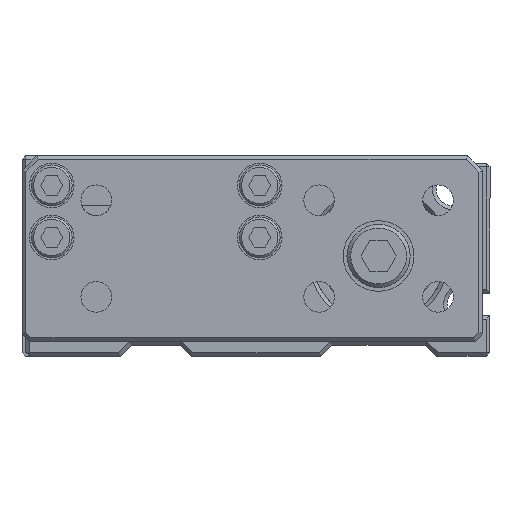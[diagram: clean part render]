
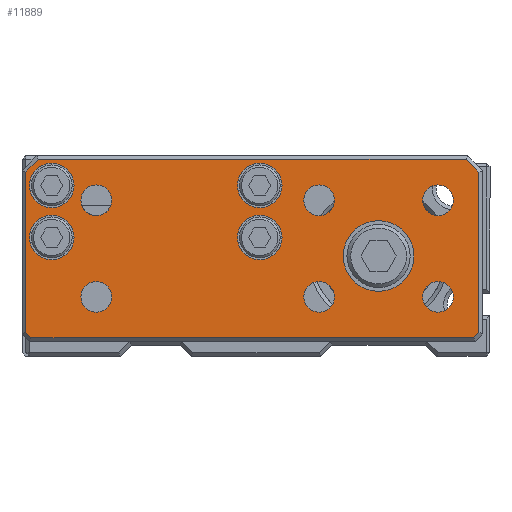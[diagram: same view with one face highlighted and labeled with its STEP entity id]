
A CAD part, front view. The second image highlights one B-rep face of the part: STEP entity #11889.
In plain terms, the highlighted planar face has unit normal (0, -1, 0).
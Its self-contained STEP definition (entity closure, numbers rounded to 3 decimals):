
#10991=CARTESIAN_POINT('',(4.75,-11.8,0.0));
#10992=VERTEX_POINT('',#10991);
#10993=CARTESIAN_POINT('',(0.,-11.8,0.0));
#10994=DIRECTION('',(0.0,1.0,0.0));
#10995=DIRECTION('',(1.0,0.0,0.0));
#10996=AXIS2_PLACEMENT_3D('',#10993,#10994,#10995);
#10997=CIRCLE('',#10996,4.75);
#10998=EDGE_CURVE('',#10992,#10992,#10997,.T.);
#11052=CARTESIAN_POINT('',(-41.0,-11.8,9.5));
#11053=VERTEX_POINT('',#11052);
#11054=CARTESIAN_POINT('',(-44.,-11.8,9.5));
#11055=DIRECTION('',(0.0,1.0,0.0));
#11056=DIRECTION('',(1.0,0.0,0.0));
#11057=AXIS2_PLACEMENT_3D('',#11054,#11055,#11056);
#11058=CIRCLE('',#11057,3.);
#11059=EDGE_CURVE('',#11053,#11053,#11058,.T.);
#11121=CARTESIAN_POINT('',(-41.0,-11.8,2.5));
#11122=VERTEX_POINT('',#11121);
#11123=CARTESIAN_POINT('',(-44.,-11.8,2.5));
#11124=DIRECTION('',(0.0,1.0,0.0));
#11125=DIRECTION('',(1.0,0.0,0.0));
#11126=AXIS2_PLACEMENT_3D('',#11123,#11124,#11125);
#11127=CIRCLE('',#11126,3.);
#11128=EDGE_CURVE('',#11122,#11122,#11127,.T.);
#11190=CARTESIAN_POINT('',(-13.,-11.8,2.5));
#11191=VERTEX_POINT('',#11190);
#11192=CARTESIAN_POINT('',(-16.,-11.8,2.5));
#11193=DIRECTION('',(0.0,1.0,0.0));
#11194=DIRECTION('',(1.0,0.0,0.0));
#11195=AXIS2_PLACEMENT_3D('',#11192,#11193,#11194);
#11196=CIRCLE('',#11195,3.);
#11197=EDGE_CURVE('',#11191,#11191,#11196,.T.);
#11259=CARTESIAN_POINT('',(-13.,-11.8,9.5));
#11260=VERTEX_POINT('',#11259);
#11261=CARTESIAN_POINT('',(-16.,-11.8,9.5));
#11262=DIRECTION('',(0.0,1.0,0.0));
#11263=DIRECTION('',(1.0,0.0,0.0));
#11264=AXIS2_PLACEMENT_3D('',#11261,#11262,#11263);
#11265=CIRCLE('',#11264,3.);
#11266=EDGE_CURVE('',#11260,#11260,#11265,.T.);
#11328=CARTESIAN_POINT('',(10.067,-11.8,7.5));
#11329=VERTEX_POINT('',#11328);
#11330=CARTESIAN_POINT('',(8.,-11.8,7.5));
#11331=DIRECTION('',(0.0,1.0,0.0));
#11332=DIRECTION('',(1.0,0.0,0.0));
#11333=AXIS2_PLACEMENT_3D('',#11330,#11331,#11332);
#11334=CIRCLE('',#11333,2.067);
#11335=EDGE_CURVE('',#11329,#11329,#11334,.T.);
#11377=CARTESIAN_POINT('',(10.067,-11.8,-5.5));
#11378=VERTEX_POINT('',#11377);
#11379=CARTESIAN_POINT('',(8.,-11.8,-5.5));
#11380=DIRECTION('',(0.0,1.0,0.0));
#11381=DIRECTION('',(1.0,0.0,0.0));
#11382=AXIS2_PLACEMENT_3D('',#11379,#11380,#11381);
#11383=CIRCLE('',#11382,2.067);
#11384=EDGE_CURVE('',#11378,#11378,#11383,.T.);
#11426=CARTESIAN_POINT('',(-5.933,-11.8,-5.5));
#11427=VERTEX_POINT('',#11426);
#11428=CARTESIAN_POINT('',(-8.,-11.8,-5.5));
#11429=DIRECTION('',(0.0,1.0,0.0));
#11430=DIRECTION('',(1.0,0.0,0.0));
#11431=AXIS2_PLACEMENT_3D('',#11428,#11429,#11430);
#11432=CIRCLE('',#11431,2.067);
#11433=EDGE_CURVE('',#11427,#11427,#11432,.T.);
#11475=CARTESIAN_POINT('',(-5.933,-11.8,7.5));
#11476=VERTEX_POINT('',#11475);
#11477=CARTESIAN_POINT('',(-8.,-11.8,7.5));
#11478=DIRECTION('',(0.0,1.0,0.0));
#11479=DIRECTION('',(1.0,0.0,0.0));
#11480=AXIS2_PLACEMENT_3D('',#11477,#11478,#11479);
#11481=CIRCLE('',#11480,2.067);
#11482=EDGE_CURVE('',#11476,#11476,#11481,.T.);
#11524=CARTESIAN_POINT('',(-35.933,-11.8,7.5));
#11525=VERTEX_POINT('',#11524);
#11526=CARTESIAN_POINT('',(-38.,-11.8,7.5));
#11527=DIRECTION('',(0.0,1.0,0.0));
#11528=DIRECTION('',(1.0,0.0,0.0));
#11529=AXIS2_PLACEMENT_3D('',#11526,#11527,#11528);
#11530=CIRCLE('',#11529,2.067);
#11531=EDGE_CURVE('',#11525,#11525,#11530,.T.);
#11582=CARTESIAN_POINT('',(-35.933,-11.8,-5.5));
#11583=VERTEX_POINT('',#11582);
#11584=CARTESIAN_POINT('',(-38.,-11.8,-5.5));
#11585=DIRECTION('',(0.0,1.0,0.0));
#11586=DIRECTION('',(1.0,0.0,0.0));
#11587=AXIS2_PLACEMENT_3D('',#11584,#11585,#11586);
#11588=CIRCLE('',#11587,2.067);
#11589=EDGE_CURVE('',#11583,#11583,#11588,.T.);
#11785=CARTESIAN_POINT('',(-48.0,-11.8,13.5));
#11786=DIRECTION('',(0.0,-1.0,0.0));
#11787=DIRECTION('',(0.0,0.0,-1.0));
#11788=AXIS2_PLACEMENT_3D('',#11785,#11786,#11787);
#11789=PLANE('',#11788);
#11790=CARTESIAN_POINT('',(13.5,-11.8,11.293));
#11791=VERTEX_POINT('',#11790);
#11792=CARTESIAN_POINT('',(13.5,-11.8,-10.293));
#11793=VERTEX_POINT('',#11792);
#11794=CARTESIAN_POINT('',(13.5,-11.8,11.293));
#11795=DIRECTION('',(0.0,0.0,-1.0));
#11796=VECTOR('',#11795,21.586);
#11797=LINE('',#11794,#11796);
#11798=EDGE_CURVE('',#11791,#11793,#11797,.T.);
#11799=ORIENTED_EDGE('',*,*,#11798,.F.);
#11800=CARTESIAN_POINT('',(11.793,-11.8,13.));
#11801=VERTEX_POINT('',#11800);
#11802=CARTESIAN_POINT('',(11.793,-11.8,13.));
#11803=DIRECTION('',(0.707,0.0,-0.707));
#11804=VECTOR('',#11803,2.414);
#11805=LINE('',#11802,#11804);
#11806=EDGE_CURVE('',#11801,#11791,#11805,.T.);
#11807=ORIENTED_EDGE('',*,*,#11806,.F.);
#11808=CARTESIAN_POINT('',(-45.793,-11.8,13.0));
#11809=VERTEX_POINT('',#11808);
#11810=CARTESIAN_POINT('',(-45.793,-11.8,13.0));
#11811=DIRECTION('',(1.0,0.0,0.0));
#11812=VECTOR('',#11811,57.586);
#11813=LINE('',#11810,#11812);
#11814=EDGE_CURVE('',#11809,#11801,#11813,.T.);
#11815=ORIENTED_EDGE('',*,*,#11814,.F.);
#11816=CARTESIAN_POINT('',(-47.5,-11.8,11.293));
#11817=VERTEX_POINT('',#11816);
#11818=CARTESIAN_POINT('',(-47.5,-11.8,11.293));
#11819=DIRECTION('',(0.707,0.0,0.707));
#11820=VECTOR('',#11819,2.414);
#11821=LINE('',#11818,#11820);
#11822=EDGE_CURVE('',#11817,#11809,#11821,.T.);
#11823=ORIENTED_EDGE('',*,*,#11822,.F.);
#11824=CARTESIAN_POINT('',(-47.5,-11.8,-10.293));
#11825=VERTEX_POINT('',#11824);
#11826=CARTESIAN_POINT('',(-47.5,-11.8,-10.293));
#11827=DIRECTION('',(0.0,0.0,1.0));
#11828=VECTOR('',#11827,21.586);
#11829=LINE('',#11826,#11828);
#11830=EDGE_CURVE('',#11825,#11817,#11829,.T.);
#11831=ORIENTED_EDGE('',*,*,#11830,.F.);
#11832=CARTESIAN_POINT('',(-46.793,-11.8,-11.0));
#11833=VERTEX_POINT('',#11832);
#11834=CARTESIAN_POINT('',(-46.793,-11.8,-11.0));
#11835=DIRECTION('',(-0.707,0.0,0.707));
#11836=VECTOR('',#11835,1.);
#11837=LINE('',#11834,#11836);
#11838=EDGE_CURVE('',#11833,#11825,#11837,.T.);
#11839=ORIENTED_EDGE('',*,*,#11838,.F.);
#11840=CARTESIAN_POINT('',(12.793,-11.8,-11.0));
#11841=VERTEX_POINT('',#11840);
#11842=CARTESIAN_POINT('',(12.793,-11.8,-11.0));
#11843=DIRECTION('',(-1.0,0.0,0.0));
#11844=VECTOR('',#11843,59.586);
#11845=LINE('',#11842,#11844);
#11846=EDGE_CURVE('',#11841,#11833,#11845,.T.);
#11847=ORIENTED_EDGE('',*,*,#11846,.F.);
#11848=CARTESIAN_POINT('',(13.5,-11.8,-10.293));
#11849=DIRECTION('',(-0.707,0.0,-0.707));
#11850=VECTOR('',#11849,1.);
#11851=LINE('',#11848,#11850);
#11852=EDGE_CURVE('',#11793,#11841,#11851,.T.);
#11853=ORIENTED_EDGE('',*,*,#11852,.F.);
#11854=EDGE_LOOP('',(#11799,#11807,#11815,#11823,#11831,#11839,#11847,#11853));
#11855=FACE_OUTER_BOUND('',#11854,.T.);
#11856=ORIENTED_EDGE('',*,*,#10998,.T.);
#11857=EDGE_LOOP('',(#11856));
#11858=FACE_BOUND('',#11857,.T.);
#11859=ORIENTED_EDGE('',*,*,#11059,.T.);
#11860=EDGE_LOOP('',(#11859));
#11861=FACE_BOUND('',#11860,.T.);
#11862=ORIENTED_EDGE('',*,*,#11128,.T.);
#11863=EDGE_LOOP('',(#11862));
#11864=FACE_BOUND('',#11863,.T.);
#11865=ORIENTED_EDGE('',*,*,#11197,.T.);
#11866=EDGE_LOOP('',(#11865));
#11867=FACE_BOUND('',#11866,.T.);
#11868=ORIENTED_EDGE('',*,*,#11266,.T.);
#11869=EDGE_LOOP('',(#11868));
#11870=FACE_BOUND('',#11869,.T.);
#11871=ORIENTED_EDGE('',*,*,#11335,.T.);
#11872=EDGE_LOOP('',(#11871));
#11873=FACE_BOUND('',#11872,.T.);
#11874=ORIENTED_EDGE('',*,*,#11384,.T.);
#11875=EDGE_LOOP('',(#11874));
#11876=FACE_BOUND('',#11875,.T.);
#11877=ORIENTED_EDGE('',*,*,#11433,.T.);
#11878=EDGE_LOOP('',(#11877));
#11879=FACE_BOUND('',#11878,.T.);
#11880=ORIENTED_EDGE('',*,*,#11482,.T.);
#11881=EDGE_LOOP('',(#11880));
#11882=FACE_BOUND('',#11881,.T.);
#11883=ORIENTED_EDGE('',*,*,#11531,.T.);
#11884=EDGE_LOOP('',(#11883));
#11885=FACE_BOUND('',#11884,.T.);
#11886=ORIENTED_EDGE('',*,*,#11589,.T.);
#11887=EDGE_LOOP('',(#11886));
#11888=FACE_BOUND('',#11887,.T.);
#11889=ADVANCED_FACE('',(#11855,#11858,#11861,#11864,#11867,#11870,#11873,#11876,#11879,#11882,#11885,#11888),#11789,.T.);
